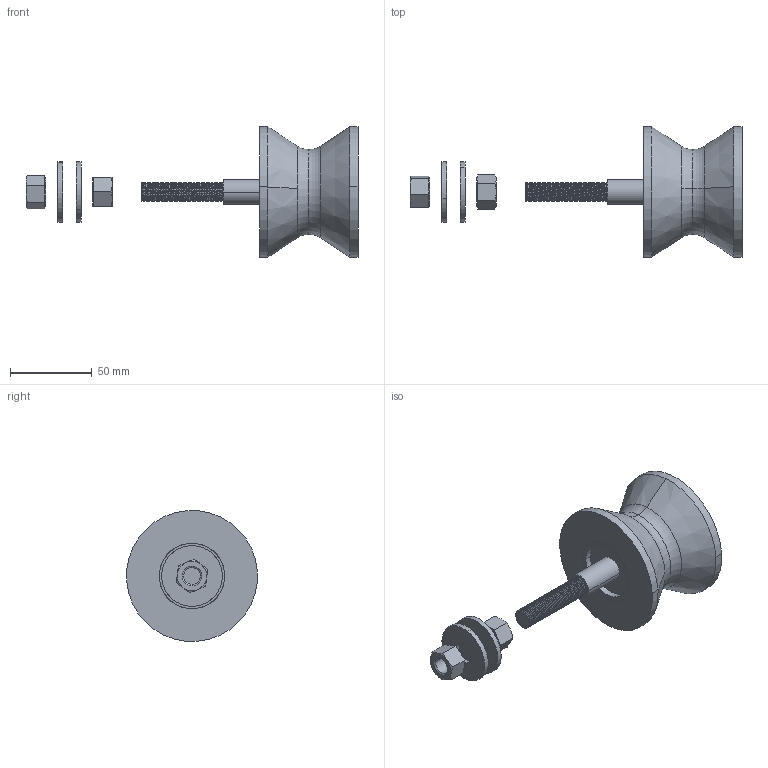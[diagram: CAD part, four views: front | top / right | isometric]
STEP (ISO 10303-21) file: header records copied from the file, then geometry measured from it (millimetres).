
FILE_DESCRIPTION (( 'STEP AP203' ), '1' );
FILE_NAME ('0002566_0_00 unico componente.STEP', '2016-10-20T14:47:39', ( '' ), ( '' ), 'SwSTEP 2.0', 'SolidWorks 2015', '' );
FILE_SCHEMA (( 'CONFIG_CONTROL_DESIGN' ));
Length unit declared in the file: millimetre
Products named in the file (5): 0002566_1_01 unico componente; 0002566_1_02 unico componente; plain washer large grade ac_iso_Washer ISO 7093 - 12; hex nut style 2 gradeab_iso_Hexagon Nut ISO - 4033 - M12 - W - N; 0002566_0_00 unico componente
Assembly tree (6 placements, depth 2):
  0002566_0_00 unico componente
    0002566_1_02 unico componente
    0002566_1_01 unico componente
    hex nut style 2 gradeab_iso_Hexagon Nut ISO - 4033 - M12 - W - N  x2
    plain washer large grade ac_iso_Washer ISO 7093 - 12  x2
Bounding box: 202.73 x 79.76 x 79.76 mm (x, y, z)
Volume: 229932.4 mm3; surface area: 52390.9 mm2
Topology: 6 solids, 6 shells, 205 faces, 522 edges, 332 vertices
Faces by surface type: cylinder 134, plane 40, cone 24, torus 4, bspline 3
Entity records: 12720 total; most frequent: CARTESIAN_POINT 8435, ORIENTED_EDGE 892, DIRECTION 652, EDGE_CURVE 446, VERTEX_POINT 288, AXIS2_PLACEMENT_3D 250, EDGE_LOOP 178, ADVANCED_FACE 169
